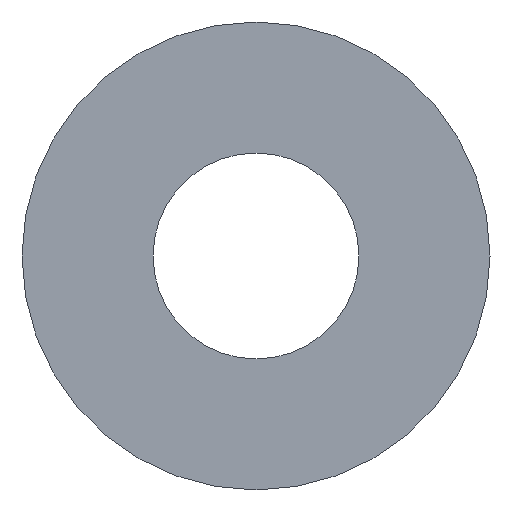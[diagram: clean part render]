
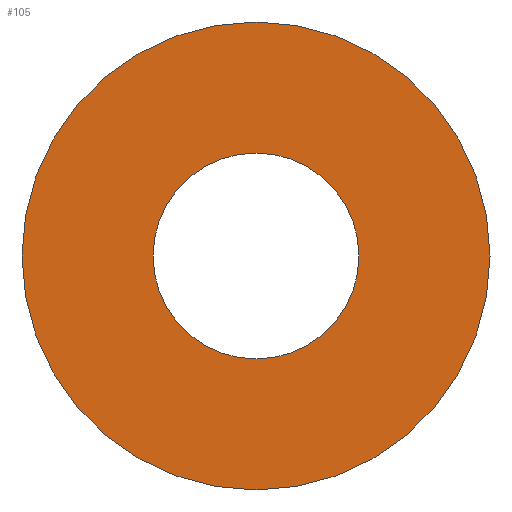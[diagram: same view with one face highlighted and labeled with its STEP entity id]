
A CAD part, front view. The second image highlights one B-rep face of the part: STEP entity #105.
In plain terms, the highlighted planar face has unit normal (0, -1, 0).
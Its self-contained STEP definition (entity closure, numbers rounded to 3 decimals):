
#21 = EDGE_CURVE('',#22,#22,#24,.T.);
#22 = VERTEX_POINT('',#23);
#23 = CARTESIAN_POINT('',(2.5,-29.9,-67.5));
#24 = SURFACE_CURVE('',#25,(#30,#42),.PCURVE_S1.);
#25 = CIRCLE('',#26,2.5);
#26 = AXIS2_PLACEMENT_3D('',#27,#28,#29);
#27 = CARTESIAN_POINT('',(0.,-29.9,-67.5));
#28 = DIRECTION('',(0.,-1.,0.));
#29 = DIRECTION('',(1.,0.,0.));
#30 = PCURVE('',#31,#36);
#31 = CYLINDRICAL_SURFACE('',#32,2.5);
#32 = AXIS2_PLACEMENT_3D('',#33,#34,#35);
#33 = CARTESIAN_POINT('',(0.,-29.6,-67.5));
#34 = DIRECTION('',(0.,-1.,0.));
#35 = DIRECTION('',(1.,0.,0.));
#36 = DEFINITIONAL_REPRESENTATION('',(#37),#41);
#37 = LINE('',#38,#39);
#38 = CARTESIAN_POINT('',(0.,0.3));
#39 = VECTOR('',#40,1.);
#40 = DIRECTION('',(1.,0.));
#41 = ( GEOMETRIC_REPRESENTATION_CONTEXT(2) 
PARAMETRIC_REPRESENTATION_CONTEXT() REPRESENTATION_CONTEXT('2D SPACE',''
  ) );
#42 = PCURVE('',#43,#48);
#43 = PLANE('',#44);
#44 = AXIS2_PLACEMENT_3D('',#45,#46,#47);
#45 = CARTESIAN_POINT('',(0.,-29.9,-67.5));
#46 = DIRECTION('',(0.,-1.,0.));
#47 = DIRECTION('',(1.,0.,0.));
#48 = DEFINITIONAL_REPRESENTATION('',(#49),#53);
#49 = CIRCLE('',#50,2.5);
#50 = AXIS2_PLACEMENT_2D('',#51,#52);
#51 = CARTESIAN_POINT('',(0.,0.));
#52 = DIRECTION('',(1.,0.));
#53 = ( GEOMETRIC_REPRESENTATION_CONTEXT(2) 
PARAMETRIC_REPRESENTATION_CONTEXT() REPRESENTATION_CONTEXT('2D SPACE',''
  ) );
#105 = ADVANCED_FACE('',(#106,#109),#43,.T.);
#106 = FACE_BOUND('',#107,.T.);
#107 = EDGE_LOOP('',(#108));
#108 = ORIENTED_EDGE('',*,*,#21,.T.);
#109 = FACE_BOUND('',#110,.T.);
#110 = EDGE_LOOP('',(#111));
#111 = ORIENTED_EDGE('',*,*,#112,.F.);
#112 = EDGE_CURVE('',#113,#113,#115,.T.);
#113 = VERTEX_POINT('',#114);
#114 = CARTESIAN_POINT('',(1.1,-29.9,-67.5));
#115 = SURFACE_CURVE('',#116,(#121,#128),.PCURVE_S1.);
#116 = CIRCLE('',#117,1.1);
#117 = AXIS2_PLACEMENT_3D('',#118,#119,#120);
#118 = CARTESIAN_POINT('',(0.,-29.9,-67.5));
#119 = DIRECTION('',(0.,-1.,0.));
#120 = DIRECTION('',(1.,0.,0.));
#121 = PCURVE('',#43,#122);
#122 = DEFINITIONAL_REPRESENTATION('',(#123),#127);
#123 = CIRCLE('',#124,1.1);
#124 = AXIS2_PLACEMENT_2D('',#125,#126);
#125 = CARTESIAN_POINT('',(0.,0.));
#126 = DIRECTION('',(1.,0.));
#127 = ( GEOMETRIC_REPRESENTATION_CONTEXT(2) 
PARAMETRIC_REPRESENTATION_CONTEXT() REPRESENTATION_CONTEXT('2D SPACE',''
  ) );
#128 = PCURVE('',#129,#134);
#129 = CYLINDRICAL_SURFACE('',#130,1.1);
#130 = AXIS2_PLACEMENT_3D('',#131,#132,#133);
#131 = CARTESIAN_POINT('',(0.,-28.6,-67.5));
#132 = DIRECTION('',(0.,-1.,0.));
#133 = DIRECTION('',(1.,0.,0.));
#134 = DEFINITIONAL_REPRESENTATION('',(#135),#139);
#135 = LINE('',#136,#137);
#136 = CARTESIAN_POINT('',(0.,1.3));
#137 = VECTOR('',#138,1.);
#138 = DIRECTION('',(1.,0.));
#139 = ( GEOMETRIC_REPRESENTATION_CONTEXT(2) 
PARAMETRIC_REPRESENTATION_CONTEXT() REPRESENTATION_CONTEXT('2D SPACE',''
  ) );
